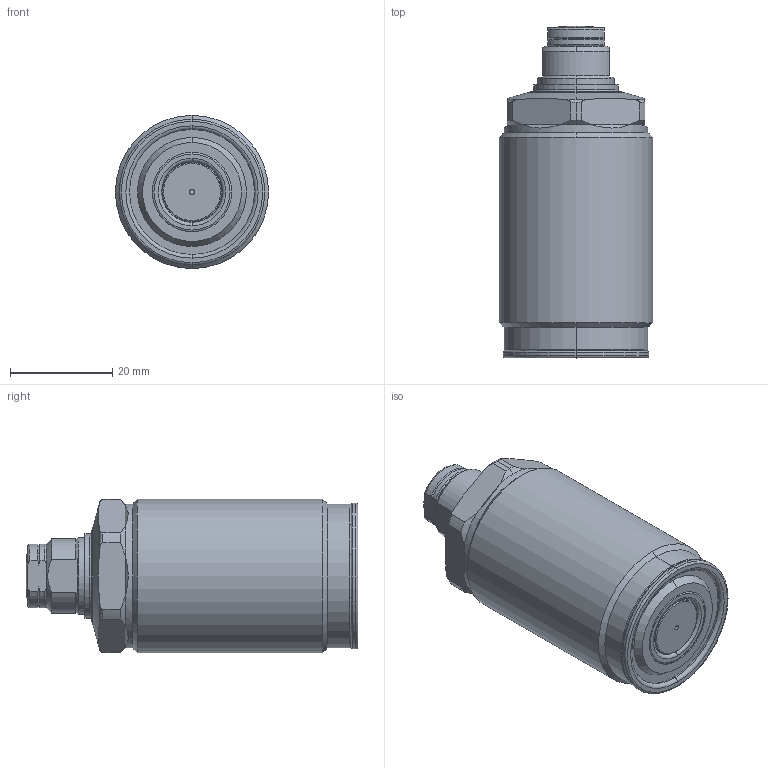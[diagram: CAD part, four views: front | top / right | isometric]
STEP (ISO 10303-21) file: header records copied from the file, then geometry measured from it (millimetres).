
FILE_DESCRIPTION(/* description */ (''),/* implementation_level */ '2;1');
FILE_NAME(/* name */ 'GSC03.stp',/* time_stamp */ '2025-01-05T13:02:54+08:00',/* author */ (''),/* organization */ (''),/* preprocessor_version */ 'ST-DEVELOPER v16.7',/* originating_system */ 'SIEMENS PLM Software NX 12.0',/* authorisation */ '');
FILE_SCHEMA (('AUTOMOTIVE_DESIGN { 1 0 10303 214 3 1 1 1 }'));
Length unit declared in the file: millimetre
Products named in the file (8): TNC0403_ContactBolt_M10; AS010; GSC03-04; GSC03-03; GSC03-02; GSC03-01; GSC03-05; TNC0603-x_step
Assembly tree (7 placements, depth 3):
  TNC0603-x_step
    GSC03-01
    GSC03-02
    GSC03-03
    GSC03-04
    GSC03-05
      AS010
      TNC0403_ContactBolt_M10
Bounding box: 30 x 65 x 30 mm (x, y, z)
Volume: 36579.6 mm3; surface area: 9476.8 mm2
Topology: 6 solids, 6 shells, 171 faces, 380 edges, 229 vertices
Faces by surface type: cylinder 51, torus 47, plane 37, cone 34, sphere 2
Full cylindrical faces by diameter (mm): 28.2 x1, 30 x1
Entity records: 5319 total; most frequent: CARTESIAN_POINT 1224, DIRECTION 919, ORIENTED_EDGE 764, AXIS2_PLACEMENT_3D 410, EDGE_CURVE 382, VERTEX_POINT 233, CIRCLE 225, EDGE_LOOP 189
